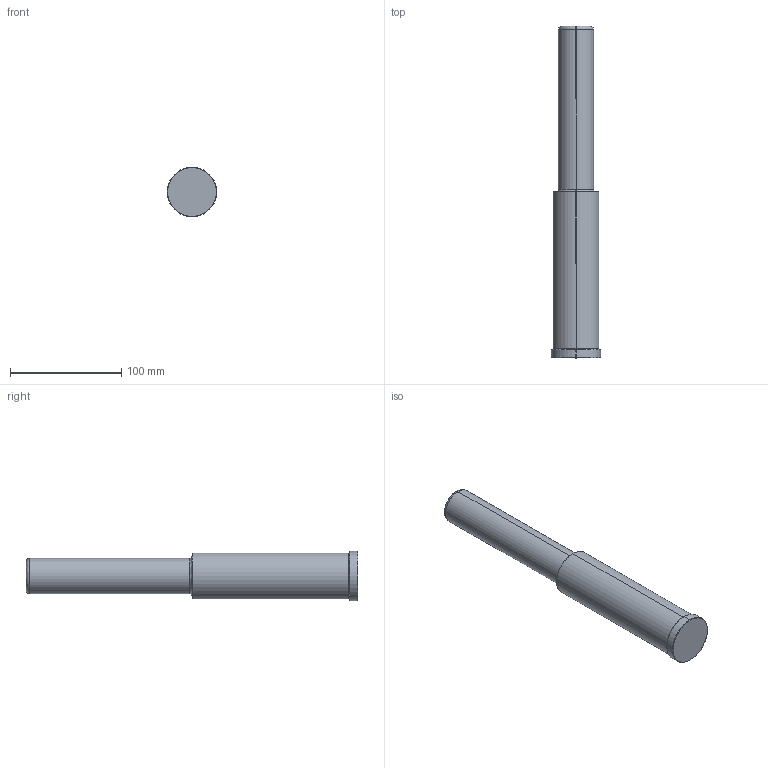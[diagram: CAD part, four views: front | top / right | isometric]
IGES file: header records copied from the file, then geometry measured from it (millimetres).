
Start section: SolidWorks IGES file using analytic representation for surfaces
Global section: file name: C:\Users\365admin\AppData\Local\Temp\InFlowXlateWorking\SLP125X587L1175.igs; native system: SolidWorks 2018; preprocessor: SolidWorks 2018; author: 365admin; date: 200823.203146; units: inch
Bounding box: 44.45 x 298.45 x 44.45 mm (x, y, z)
Surface area: 37273.9 mm2 (no closed solid volume)
Topology: 0 solids, 0 shells, 23 faces, 552 edges, 552 vertices
Faces by surface type: bspline 13, revolution 10
